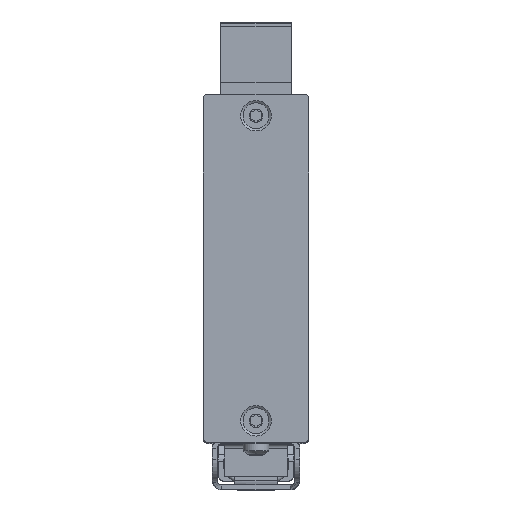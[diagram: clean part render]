
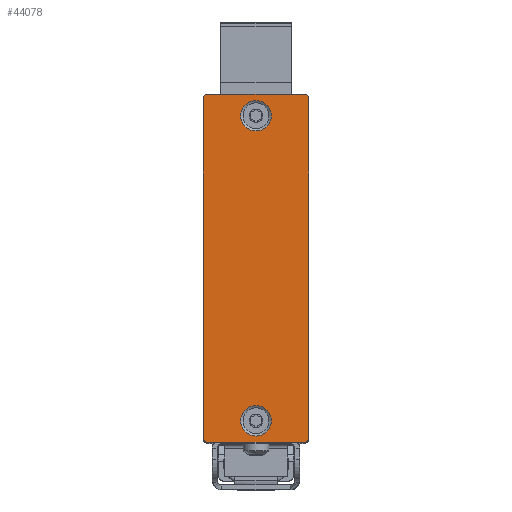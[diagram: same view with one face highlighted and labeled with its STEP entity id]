
A CAD part, top view. The second image highlights one B-rep face of the part: STEP entity #44078.
In plain terms, the highlighted planar face has unit normal (0, 0, 1).
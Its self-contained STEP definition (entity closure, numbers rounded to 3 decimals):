
#43685=CARTESIAN_POINT('',(-10.25,37.05,72.5));
#43686=VERTEX_POINT('',#43685);
#43693=CARTESIAN_POINT('',(10.25,37.05,72.5));
#43694=VERTEX_POINT('',#43693);
#43695=CARTESIAN_POINT('',(10.25,37.05,72.5));
#43696=DIRECTION('',(-1.,0.,0.));
#43697=VECTOR('',#43696,20.5);
#43698=LINE('',#43695,#43697);
#43699=EDGE_CURVE('',#43694,#43686,#43698,.T.);
#43716=CARTESIAN_POINT('',(-11.25,36.05,72.5));
#43717=VERTEX_POINT('',#43716);
#43718=CARTESIAN_POINT('',(-11.25,-36.15,72.5));
#43719=VERTEX_POINT('',#43718);
#43720=CARTESIAN_POINT('',(-11.25,36.05,72.5));
#43721=DIRECTION('',(0.,-1.,0.));
#43722=VECTOR('',#43721,72.2);
#43723=LINE('',#43720,#43722);
#43724=EDGE_CURVE('',#43717,#43719,#43723,.T.);
#43757=CARTESIAN_POINT('',(-10.25,-37.15,72.5));
#43758=VERTEX_POINT('',#43757);
#43759=CARTESIAN_POINT('',(10.25,-37.15,72.5));
#43760=VERTEX_POINT('',#43759);
#43761=CARTESIAN_POINT('',(-10.25,-37.15,72.5));
#43762=DIRECTION('',(1.,0.,-0.));
#43763=VECTOR('',#43762,20.5);
#43764=LINE('',#43761,#43763);
#43765=EDGE_CURVE('',#43758,#43760,#43764,.T.);
#43808=CARTESIAN_POINT('',(11.25,36.05,72.5));
#43809=VERTEX_POINT('',#43808);
#43816=CARTESIAN_POINT('',(11.25,-36.15,72.5));
#43817=VERTEX_POINT('',#43816);
#43818=CARTESIAN_POINT('',(11.25,-36.15,72.5));
#43819=DIRECTION('',(-0.,1.,0.));
#43820=VECTOR('',#43819,72.2);
#43821=LINE('',#43818,#43820);
#43822=EDGE_CURVE('',#43817,#43809,#43821,.T.);
#44017=CARTESIAN_POINT('',(0.,-0.05,72.5));
#44018=DIRECTION('',(0.,0.,1.));
#44019=DIRECTION('',(-1.,0.,0.));
#44020=AXIS2_PLACEMENT_3D('',#44017,#44018,#44019);
#44021=PLANE('',#44020);
#44022=CARTESIAN_POINT('',(0.,-35.8,72.5));
#44023=VERTEX_POINT('',#44022);
#44024=CARTESIAN_POINT('',(0.,-32.55,72.5));
#44025=DIRECTION('',(0.,0.,-1.));
#44026=DIRECTION('',(0.,-1.,0.));
#44027=AXIS2_PLACEMENT_3D('',#44024,#44025,#44026);
#44028=CIRCLE('',#44027,3.25);
#44029=EDGE_CURVE('',#44023,#44023,#44028,.T.);
#44030=ORIENTED_EDGE('',*,*,#44029,.T.);
#44031=EDGE_LOOP('',(#44030));
#44032=FACE_BOUND('',#44031,.T.);
#44033=CARTESIAN_POINT('',(0.,29.2,72.5));
#44034=VERTEX_POINT('',#44033);
#44035=CARTESIAN_POINT('',(0.,32.45,72.5));
#44036=DIRECTION('',(0.,0.,-1.));
#44037=DIRECTION('',(0.,-1.,0.));
#44038=AXIS2_PLACEMENT_3D('',#44035,#44036,#44037);
#44039=CIRCLE('',#44038,3.25);
#44040=EDGE_CURVE('',#44034,#44034,#44039,.T.);
#44041=ORIENTED_EDGE('',*,*,#44040,.T.);
#44042=EDGE_LOOP('',(#44041));
#44043=FACE_BOUND('',#44042,.T.);
#44044=ORIENTED_EDGE('',*,*,#43699,.T.);
#44045=CARTESIAN_POINT('',(-10.25,36.05,72.5));
#44046=DIRECTION('',(0.,0.,1.));
#44047=DIRECTION('',(1.,0.,-0.));
#44048=AXIS2_PLACEMENT_3D('',#44045,#44046,#44047);
#44049=CIRCLE('',#44048,1.);
#44050=EDGE_CURVE('',#43686,#43717,#44049,.T.);
#44051=ORIENTED_EDGE('',*,*,#44050,.T.);
#44052=ORIENTED_EDGE('',*,*,#43724,.T.);
#44053=CARTESIAN_POINT('',(-10.25,-36.15,72.5));
#44054=DIRECTION('',(0.,0.,1.));
#44055=DIRECTION('',(1.,0.,-0.));
#44056=AXIS2_PLACEMENT_3D('',#44053,#44054,#44055);
#44057=CIRCLE('',#44056,1.);
#44058=EDGE_CURVE('',#43719,#43758,#44057,.T.);
#44059=ORIENTED_EDGE('',*,*,#44058,.T.);
#44060=ORIENTED_EDGE('',*,*,#43765,.T.);
#44061=CARTESIAN_POINT('',(10.25,-36.15,72.5));
#44062=DIRECTION('',(0.,0.,1.));
#44063=DIRECTION('',(1.,0.,-0.));
#44064=AXIS2_PLACEMENT_3D('',#44061,#44062,#44063);
#44065=CIRCLE('',#44064,1.);
#44066=EDGE_CURVE('',#43760,#43817,#44065,.T.);
#44067=ORIENTED_EDGE('',*,*,#44066,.T.);
#44068=ORIENTED_EDGE('',*,*,#43822,.T.);
#44069=CARTESIAN_POINT('',(10.25,36.05,72.5));
#44070=DIRECTION('',(0.,0.,1.));
#44071=DIRECTION('',(1.,0.,-0.));
#44072=AXIS2_PLACEMENT_3D('',#44069,#44070,#44071);
#44073=CIRCLE('',#44072,1.);
#44074=EDGE_CURVE('',#43809,#43694,#44073,.T.);
#44075=ORIENTED_EDGE('',*,*,#44074,.T.);
#44076=EDGE_LOOP('',(#44044,#44051,#44052,#44059,#44060,#44067,#44068,#44075));
#44077=FACE_BOUND('',#44076,.T.);
#44078=ADVANCED_FACE('',(#44032,#44043,#44077),#44021,.T.);
